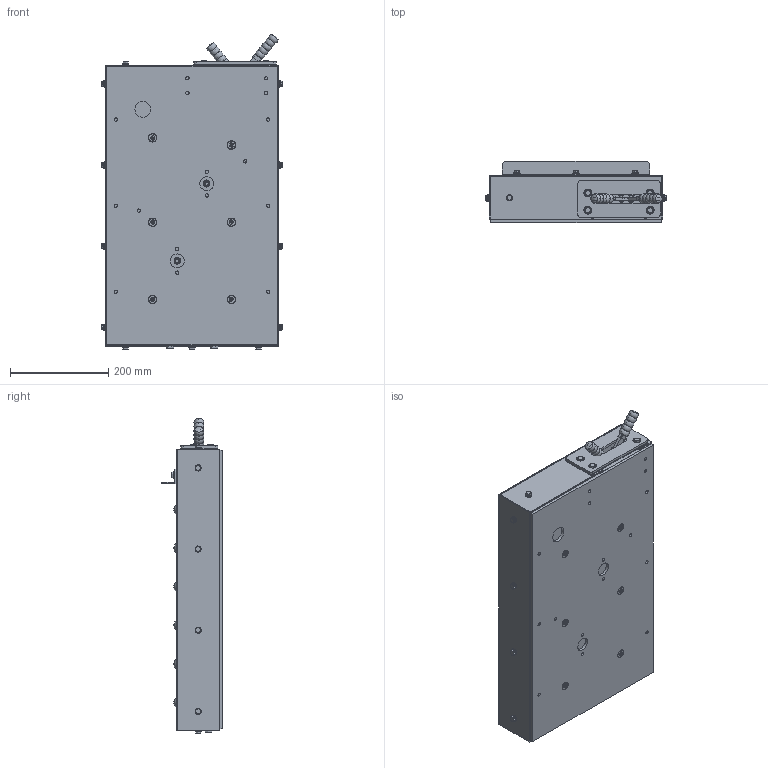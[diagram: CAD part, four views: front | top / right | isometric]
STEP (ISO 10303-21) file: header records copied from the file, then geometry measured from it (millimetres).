
FILE_DESCRIPTION(/* description */ (''),/* implementation_level */ '2;1');
FILE_NAME(/* name */ '',/* time_stamp */ '2025-06-03T11:57:55+09:00',/* author */ ('k-hotta'),/* organization */ (''),/* preprocessor_version */ 'ST-DEVELOPER v20',/* originating_system */ 'Autodesk Inventor 2024',/* authorisation */ '');
FILE_SCHEMA (('AUTOMOTIVE_DESIGN { 1 0 10303 214 3 1 1 }'));
Length unit declared in the file: millimetre
Products named in the file (26): QL-3557型_横レバー; P141-0029; P141-0030; 本体サブASSY(横レバー); HPNN50605; JIS B 1111 - A M8 x 20 - Z; P141-0031; P141-0014-003; P141-0014-002; HPNN50805; PS0709; P141-0031-004; P141-0031-001; P142-0016; P142-0024; P142-0025; PM1151; Handle; Rivet_³6~12; Grip; PM1153; JIS B 1180 - C M8 x 20; JIS B 1256 - 6.4; JIS B 1180 - C M6 x 16; JIS B 1251 - No. 2 6; 3125AA(HP用)_BALL_ONLY
Assembly tree (132 placements, depth 4):
  QL-3557型_横レバー
    P141-0029
      P141-0030
        本体サブASSY(横レバー)
        HPNN50605  x16
      JIS B 1111 - A M8 x 20 - Z  x6
    P141-0031
      P141-0014-003
      P141-0014-002  x2
      HPNN50805  x3
      PS0709  x2
      P141-0031-004
      P141-0031-001
    P142-0016
    P142-0024
    P142-0025
    PM1151
      Handle  x2
      Rivet_³6~12  x3
      Grip  x2
    JIS B 1180 - C M6 x 16  x19
    JIS B 1251 - No. 2 6  x19
    JIS B 1256 - 6.4  x19
    PM1153  x2
    JIS B 1180 - C M8 x 20  x2
    3125AA(HP用)_BALL_ONLY  x24
Bounding box: 366.2 x 125 x 641.66 mm (x, y, z)
Volume: 2519128.9 mm3; surface area: 1616482.4 mm2
Topology: 135 solids, 135 shells, 1677 faces, 3834 edges, 2435 vertices
Faces by surface type: plane 800, cone 409, cylinder 345, torus 60, sphere 39, bspline 24
Full cylindrical faces by diameter (mm): 4.917 x16, 6 x26, 6.4 x19, 6.561 x16, 6.647 x21, 7.233 x6, 7.89 x3, 7.9 x16, 8 x27, 8.1 x16, 8.2 x6, 8.7 x2, 9 x5, 9.5 x3, 9.6 x3, 10 x4, 12.5 x19, 13.5 x2, 15.8 x6, 16 x4, 24 x24, 28 x2, 32.2 x1
Entity records: 16812 total; most frequent: CARTESIAN_POINT 3585, DIRECTION 2675, ORIENTED_EDGE 2264, EDGE_CURVE 1132, AXIS2_PLACEMENT_3D 1057, VERTEX_POINT 745, EDGE_LOOP 687, LINE 561
